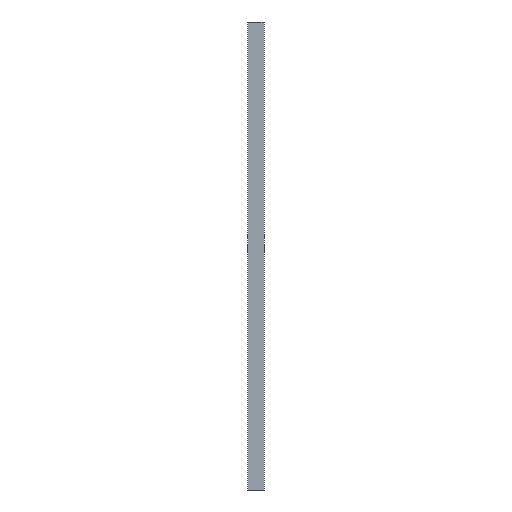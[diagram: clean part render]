
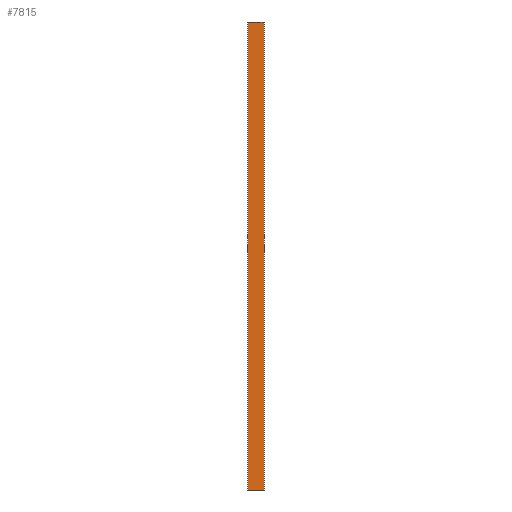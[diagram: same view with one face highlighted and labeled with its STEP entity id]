
A CAD part, left-side view. The second image highlights one B-rep face of the part: STEP entity #7815.
In plain terms, the highlighted planar face has unit normal (-1, 0, 0).
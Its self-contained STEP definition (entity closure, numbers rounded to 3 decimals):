
#67 = EDGE_CURVE ( 'NONE', #7595, #1433, #9925, .T. ) ;
#148 = VECTOR ( 'NONE', #6531, 1000. ) ;
#339 = ORIENTED_EDGE ( 'NONE', *, *, #9380, .F. ) ;
#357 = DIRECTION ( 'NONE',  ( 0., -1., 0. ) ) ;
#514 = LINE ( 'NONE', #4173, #6720 ) ;
#682 = ORIENTED_EDGE ( 'NONE', *, *, #9392, .T. ) ;
#1115 = DIRECTION ( 'NONE',  ( 0., 0., -1. ) ) ;
#1433 = VERTEX_POINT ( 'NONE', #8856 ) ;
#1797 = VERTEX_POINT ( 'NONE', #4916 ) ;
#1810 = FACE_OUTER_BOUND ( 'NONE', #2198, .T. ) ;
#1956 = LINE ( 'NONE', #2764, #8567 ) ;
#1958 = DIRECTION ( 'NONE',  ( 0., 0., -1. ) ) ;
#2198 = EDGE_LOOP ( 'NONE', ( #4755, #339, #3475, #682 ) ) ;
#2764 = CARTESIAN_POINT ( 'NONE',  ( 420.435, 0., 1000. ) ) ;
#3057 = VERTEX_POINT ( 'NONE', #4106 ) ;
#3475 = ORIENTED_EDGE ( 'NONE', *, *, #8225, .F. ) ;
#3476 = CARTESIAN_POINT ( 'NONE',  ( 420.435, 174.005, 1000. ) ) ;
#4106 = CARTESIAN_POINT ( 'NONE',  ( 420.435, 174.005, 1000. ) ) ;
#4173 = CARTESIAN_POINT ( 'NONE',  ( 420.435, 139.679, 1000. ) ) ;
#4395 = AXIS2_PLACEMENT_3D ( 'NONE', #6489, #4979, #1115 ) ;
#4639 = DIRECTION ( 'NONE',  ( 0., -1., 0. ) ) ;
#4755 = ORIENTED_EDGE ( 'NONE', *, *, #67, .T. ) ;
#4916 = CARTESIAN_POINT ( 'NONE',  ( 420.435, 139.679, 1000. ) ) ;
#4971 = LINE ( 'NONE', #3476, #148 ) ;
#4979 = DIRECTION ( 'NONE',  ( 1., 0., 0. ) ) ;
#5478 = CARTESIAN_POINT ( 'NONE',  ( 420.435, 0., 0. ) ) ;
#6489 = CARTESIAN_POINT ( 'NONE',  ( 420.435, 0., 1000. ) ) ;
#6531 = DIRECTION ( 'NONE',  ( 0., 0., -1. ) ) ;
#6720 = VECTOR ( 'NONE', #1958, 1000. ) ;
#7398 = PLANE ( 'NONE',  #4395 ) ;
#7595 = VERTEX_POINT ( 'NONE', #9922 ) ;
#7815 = ADVANCED_FACE ( 'NONE', ( #1810 ), #7398, .F. ) ;
#8225 = EDGE_CURVE ( 'NONE', #3057, #1797, #1956, .T. ) ;
#8567 = VECTOR ( 'NONE', #357, 1000. ) ;
#8856 = CARTESIAN_POINT ( 'NONE',  ( 420.435, 139.679, 0. ) ) ;
#9360 = VECTOR ( 'NONE', #4639, 1000. ) ;
#9380 = EDGE_CURVE ( 'NONE', #1797, #1433, #514, .T. ) ;
#9392 = EDGE_CURVE ( 'NONE', #3057, #7595, #4971, .T. ) ;
#9922 = CARTESIAN_POINT ( 'NONE',  ( 420.435, 174.005, 0. ) ) ;
#9925 = LINE ( 'NONE', #5478, #9360 ) ;
